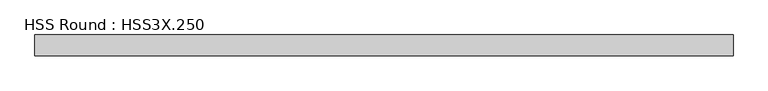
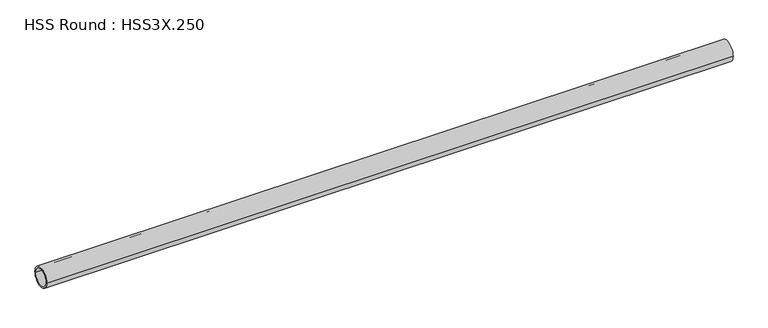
"""IFC4 building model written with IfcOpenShell, lengths in millimetres: member geometry, HSS Round : HSS3X.250."""

from ifc_helpers import new_model, si_unit, point, frame, origin, origin_2d, place, context, project, spatial, circle_curve, trimmed, segment, composite_curve, outline, extrude, source, transform, mapped, element, save


def hss_round_hss3x_250_4fada55d(model_context):
    return source(origin(), model_context, "Body", "SweptSolid", [
        extrude(outline(composite_curve([segment(trimmed(circle_curve(origin_2d(), 38.1), [point((-38.1, 0.0))], [point((38.1, 0.0))], False, "CARTESIAN"), True, "CONTINUOUS"), segment(trimmed(circle_curve(origin_2d(), 38.1), [point((38.1, 0.0))], [point((-38.1, 0.0))], False, "CARTESIAN"), True, "CONTINUOUS")], self_intersect=False), holes=[composite_curve([segment(trimmed(circle_curve(origin_2d(), 31.75), [point((31.75, 0.0))], [point((-31.75, 0.0))], True, "CARTESIAN"), True, "CONTINUOUS"), segment(trimmed(circle_curve(origin_2d(), 31.75), [point((-31.75, 0.0))], [point((31.75, 0.0))], True, "CARTESIAN"), True, "CONTINUOUS")], self_intersect=False)]), frame((-1357.7764543, 0.0, 0.0), z_axis=(1.0, 0.0, 0.0), x_axis=(0.0, 1.0, 0.0)), (0.0, 0.0, 1.0), 2564.0538014),
    ])


if __name__ == "__main__":
    model = new_model("IFC4")
    model_context = context("Model", 3, world=origin())
    ifc_project = project(units=[si_unit("LENGTHUNIT", "METRE", prefix="MILLI")], contexts=[model_context])
    site = spatial("IfcSite", under=ifc_project)
    building = spatial("IfcBuilding", under=site)
    placement = place(None, origin())
    hss_round_hss3x_250_shape = hss_round_hss3x_250_4fada55d(model_context)
    element("IfcMember", 1, ObjectType="HSS Round : HSS3X.250", at=placement, inside=building, context=model_context, shape_type="MappedRepresentation", body=[
        mapped(hss_round_hss3x_250_shape, transform((0.0, 0.0, 0.0), x_axis=(1.0, 0.0, 0.0), y_axis=(0.0, 1.0, 0.0), z_axis=(0.0, 0.0, 1.0))),
    ])
    save(model, "model.ifc")
